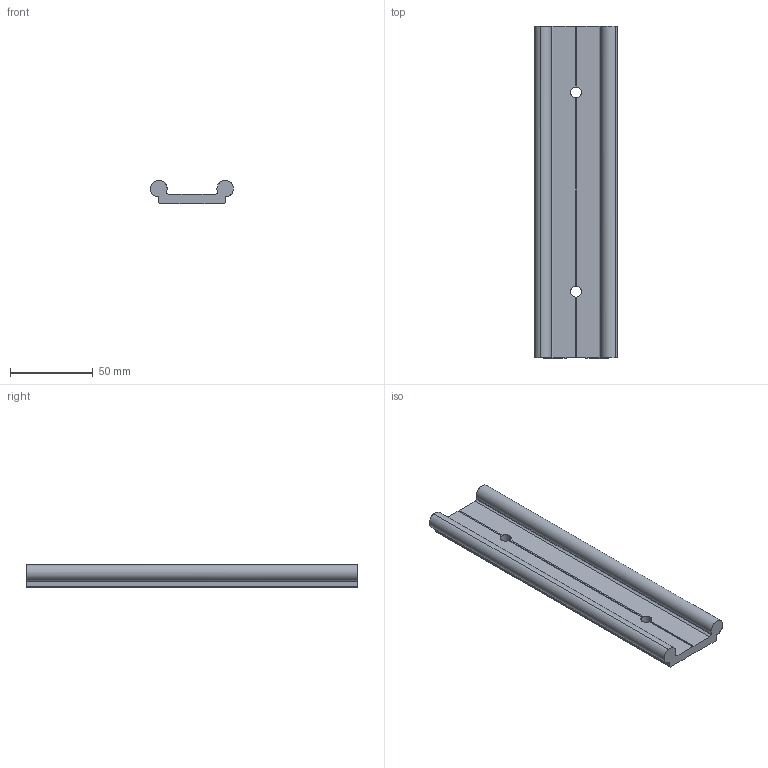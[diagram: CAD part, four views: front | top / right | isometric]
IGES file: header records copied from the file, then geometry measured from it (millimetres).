
Start section: ACIS data in IGES format
Global section: file name: Unknown; native system: ACIS; preprocessor: *IGES writer V5.2; author: unknown author; organization: unknown organization; date: 20100121.192020; units: millimetre
Bounding box: 50 x 200 x 14 mm (x, y, z)
Surface area: 27131.8 mm2 (no closed solid volume)
Topology: 0 solids, 0 shells, 33 faces, 222 edges, 222 vertices
Faces by surface type: bspline 33
